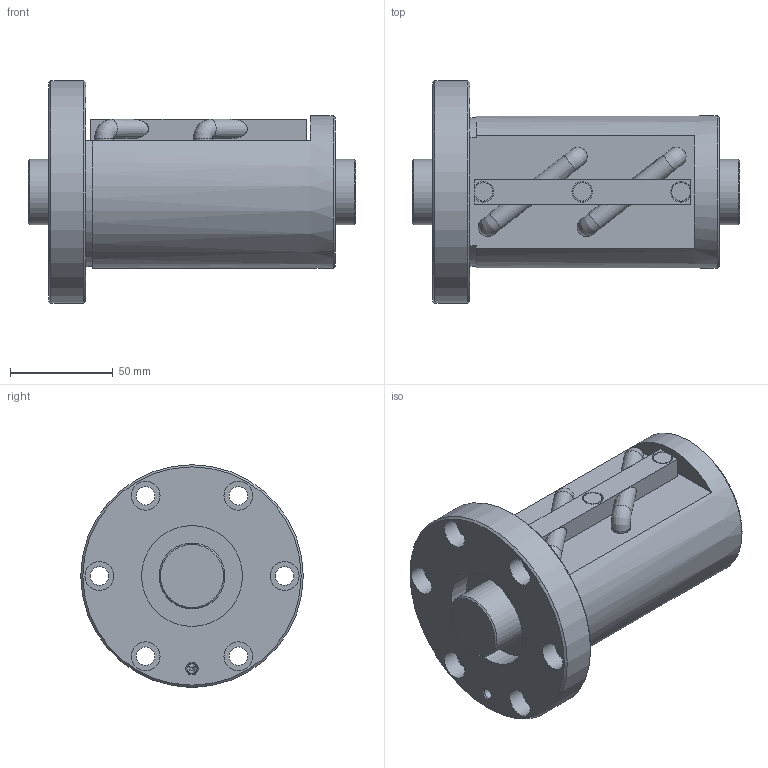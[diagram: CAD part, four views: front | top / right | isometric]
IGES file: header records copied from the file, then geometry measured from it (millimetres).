
Start section: Data from Parasolid IGES Translator 26.0.171, Copyright(c) 2006 Siemens PLM Software. All Rights Reserved.
Global section: file name: BNF3216V-5RRG1+159LC0_000_rev.igs; native system: By Siemens PLM Incorporated; preprocessor: XPlus GENERIC/IGES 26.0.171; author: Noname; organization: Noname; date: 20240806.083804; units: millimetre
Bounding box: 159 x 108 x 108 mm (x, y, z)
Surface area: 91950.6 mm2 (no closed solid volume)
Topology: 0 solids, 0 shells, 97 faces, 475 edges, 431 vertices
Faces by surface type: revolution 58, extrusion 39
